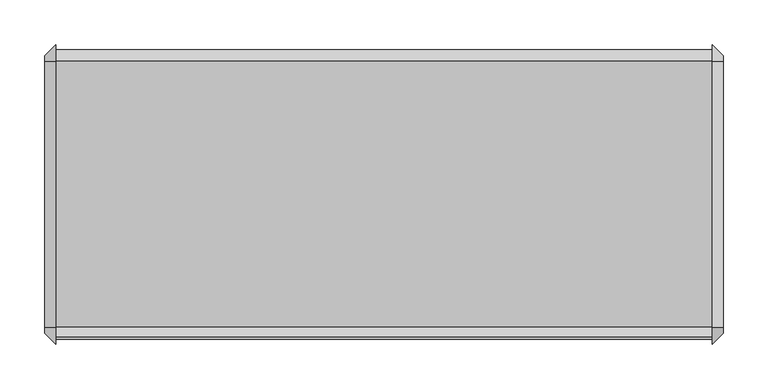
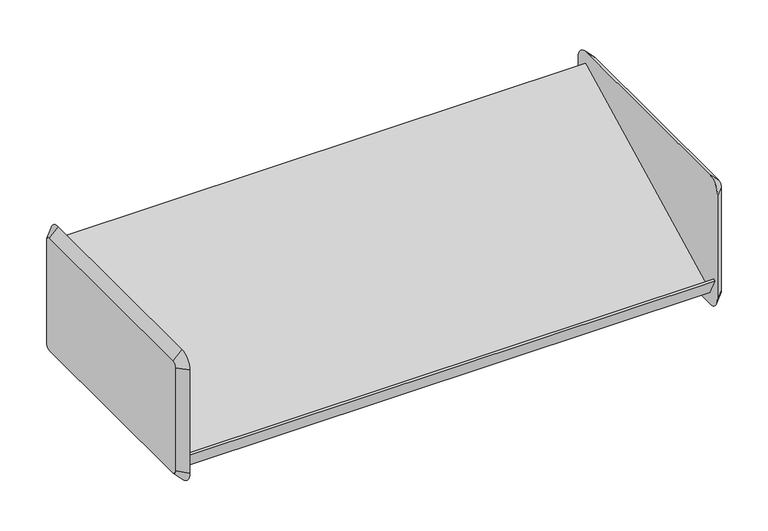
"""IFC4 building model written with IfcOpenShell, lengths in millimetres: furniture geometry."""

import ifcopenshell
import ifcopenshell.guid

model = None  # the IFC model being written
_history = None  # IfcOwnerHistory: only IFC2X3 demands one
_inside = {}  # id of a spatial element -> (the spatial element, [elements in it])
_under = {}  # id of a project, library or spatial element -> (it, [spatial elements below it])
_declared = {}  # id of a project -> (the project, [libraries it declares])
_typed = {}  # id of a type object -> (the type object, [elements of that type])
_made_of = {}  # id of a material, layer set ... -> (it, [elements and type objects made of it])


def new_model(schema):
    """Start an empty IFC model of exactly this schema.

    Asked for "IFC4X3", IfcOpenShell would pick the latest addendum, in which some entities
    have other attributes; the version numbers below select the first issue.
    IFC2X3 requires an IfcOwnerHistory on every rooted entity: one is made here for all.
    """
    global model, _history
    if schema == "IFC4X3":
        model = ifcopenshell.file(schema_version=(4, 3, 0, 0))
    else:
        model = ifcopenshell.file(schema=schema)
    _inside.clear()
    _under.clear()
    _declared.clear()
    _typed.clear()
    _made_of.clear()
    _history = None
    if model.schema == "IFC2X3":
        org = make("IfcOrganization", Name="unknown")
        user = make(
            "IfcPersonAndOrganization",
            ThePerson=make("IfcPerson", FamilyName="unknown"),
            TheOrganization=org,
        )
        app = make(
            "IfcApplication",
            ApplicationDeveloper=org,
            Version="unknown",
            ApplicationFullName="unknown",
            ApplicationIdentifier="unknown",
        )
        _history = make(
            "IfcOwnerHistory",
            OwningUser=user,
            OwningApplication=app,
            ChangeAction="ADDED",
            CreationDate=0,
        )
    return model


def make(cls, **values):
    """One entity of the class cls with the attributes given. An attribute that is None is left unset."""
    return model.create_entity(
        cls, **{name: value for name, value in values.items() if value is not None}
    )


def rooted(cls, **values):
    """An entity with a GlobalId (a new one), such as an element, a storey or a relation."""
    return make(cls, GlobalId=ifcopenshell.guid.new(), OwnerHistory=_history, **values)


def si_unit(unit_type, name, prefix=None):
    """IfcSIUnit, for example si_unit("LENGTHUNIT", "METRE", prefix="MILLI")."""
    return make("IfcSIUnit", UnitType=unit_type, Prefix=prefix, Name=name)


def assignment(units):
    """IfcUnitAssignment: the units of a project."""
    return None if units is None else make("IfcUnitAssignment", Units=units)


def point(xyz):
    """IfcCartesianPoint."""
    return None if xyz is None else make("IfcCartesianPoint", Coordinates=xyz)


def direction(xyz):
    """IfcDirection."""
    return None if xyz is None else make("IfcDirection", DirectionRatios=xyz)


def frame(location, z_axis=None, x_axis=None):
    """IfcAxis2Placement3D, a coordinate frame: its origin and axes. An axis left out is left unset."""
    return make(
        "IfcAxis2Placement3D",
        Location=point(location),
        Axis=direction(z_axis),
        RefDirection=direction(x_axis),
    )


def origin():
    """The frame at (0, 0, 0) with its axes left unset."""
    return frame((0.0, 0.0, 0.0))


def place(relative_to, where):
    """IfcLocalPlacement: puts the frame where relative to a parent placement (None: the world)."""
    return make(
        "IfcLocalPlacement", PlacementRelTo=relative_to, RelativePlacement=where
    )


def context(
    kind, dimensions, precision=None, world=None, true_north=None, identifier=None
):
    """IfcGeometricRepresentationContext, for example the 3D "Model" context."""
    return make(
        "IfcGeometricRepresentationContext",
        ContextIdentifier=identifier,
        ContextType=kind,
        CoordinateSpaceDimension=dimensions,
        Precision=precision,
        WorldCoordinateSystem=world,
        TrueNorth=true_north,
    )


def project(units=None, contexts=None):
    """IfcProject with its units and contexts."""
    return rooted(
        "IfcProject",
        Name="project",
        RepresentationContexts=contexts,
        UnitsInContext=assignment(units),
    )


def spatial(cls, under=None, at=None, **own):
    """A site, building, storey or space (cls), placed at a placement, below another one or the project."""
    s = rooted(cls, ObjectPlacement=at, **own)
    if under is not None:
        _under.setdefault(under.id(), (under, []))[1].append(s)
    return s


def polyline(points):
    """IfcPolyline through the points."""
    return make("IfcPolyline", Points=[point(p) for p in points])


def circle_curve(where, radius):
    """IfcCircle in the frame where."""
    return make("IfcCircle", Position=where, Radius=radius)


def outline(outer, holes=None, kind="AREA"):
    """IfcArbitraryClosedProfileDef: a profile drawn as a closed curve; with holes, ...WithVoids."""
    if holes is None:
        return make("IfcArbitraryClosedProfileDef", ProfileType=kind, OuterCurve=outer)
    return make(
        "IfcArbitraryProfileDefWithVoids",
        ProfileType=kind,
        OuterCurve=outer,
        InnerCurves=holes,
    )


def extrude(swept, where, along, depth):
    """IfcExtrudedAreaSolid: the profile swept, set in the frame where, extruded along a direction by depth."""
    return make(
        "IfcExtrudedAreaSolid",
        SweptArea=swept,
        Position=where,
        ExtrudedDirection=direction(along),
        Depth=depth,
    )


def shape(context_of_items, identifier, shape_type, items):
    """IfcShapeRepresentation: the items that make up one representation, for example the "Body"."""
    return make(
        "IfcShapeRepresentation",
        ContextOfItems=context_of_items,
        RepresentationIdentifier=identifier,
        RepresentationType=shape_type,
        Items=items,
    )


def source(mapping_origin, context_of_items, identifier, shape_type, items):
    """IfcRepresentationMap: a shape defined once, which mapped items show again and again."""
    return make(
        "IfcRepresentationMap",
        MappingOrigin=mapping_origin,
        MappedRepresentation=shape(context_of_items, identifier, shape_type, items),
    )


def transform(
    local_origin,
    x_axis=None,
    y_axis=None,
    z_axis=None,
    scale=None,
    scale2=None,
    scale3=None,
    uniform=True,
):
    """IfcCartesianTransformationOperator3D, or its non-uniform kind. x_axis, y_axis, z_axis: its Axis1, 2, 3."""
    if uniform:
        return make(
            "IfcCartesianTransformationOperator3D",
            Axis1=direction(x_axis),
            Axis2=direction(y_axis),
            LocalOrigin=point(local_origin),
            Scale=scale,
            Axis3=direction(z_axis),
        )
    return make(
        "IfcCartesianTransformationOperator3DnonUniform",
        Axis1=direction(x_axis),
        Axis2=direction(y_axis),
        LocalOrigin=point(local_origin),
        Scale=scale,
        Axis3=direction(z_axis),
        Scale2=scale2,
        Scale3=scale3,
    )


def mapped(mapping_source, mapping_target):
    """IfcMappedItem: shows the shape of a source again, moved by a transform."""
    return make(
        "IfcMappedItem", MappingSource=mapping_source, MappingTarget=mapping_target
    )


def made_of(thing, what):
    """Note that an element or type object is made of a material, layer set ...; save() writes the relation."""
    if what is not None:
        _made_of.setdefault(what.id(), (what, []))[1].append(thing)
    return thing


def element(
    cls,
    number,
    at=None,
    inside=None,
    cuts=None,
    type_object=None,
    material=None,
    context=None,
    identifier="Body",
    shape_type=None,
    held_by="IfcProductDefinitionShape",
    body=None,
    shapes=None,
    **own,
):
    """One element of the class cls, such as IfcWall. Its Tag is "e" and its number.

    at: its placement. inside: the storey or other place that contains it. cuts: it is an
    opening in that element (IfcRelVoidsElement). A single representation is given by context,
    identifier, shape_type and body (its items); several are given by shapes. held_by: the class
    of the entity that holds the representations. save() writes the other relations.
    """
    e = rooted(cls, Tag="e%d" % number, ObjectPlacement=at, **own)
    if body is not None:
        shapes = [shape(context, identifier, shape_type, body)]
    if shapes is not None:
        e.Representation = make(held_by, Representations=shapes)
    if inside is not None:
        _inside.setdefault(inside.id(), (inside, []))[1].append(e)
    if cuts is not None:
        rooted(
            "IfcRelVoidsElement", RelatingBuildingElement=cuts, RelatedOpeningElement=e
        )
    if type_object is not None:
        _typed.setdefault(type_object.id(), (type_object, []))[1].append(e)
    return made_of(e, material)


def aggregate(whole, parts):
    """IfcRelAggregates: a whole, such as a stair, and the parts it consists of."""
    return rooted("IfcRelAggregates", RelatingObject=whole, RelatedObjects=parts)


def save(model, path):
    """Write the relations noted so far, then the file.

    IfcRelAggregates (storeys below a building ...), IfcRelContainedInSpatialStructure (elements
    in a storey), IfcRelDefinesByType, IfcRelAssociatesMaterial and IfcRelDeclares: one each for
    every whole, place, type object, material and project.
    """
    for whole, parts in _under.values():
        aggregate(whole, parts)
    for where, things in _inside.values():
        rooted(
            "IfcRelContainedInSpatialStructure",
            RelatedElements=things,
            RelatingStructure=where,
        )
    for kind, things in _typed.values():
        rooted("IfcRelDefinesByType", RelatedObjects=things, RelatingType=kind)
    for what, things in _made_of.values():
        rooted("IfcRelAssociatesMaterial", RelatedObjects=things, RelatingMaterial=what)
    for by, libraries in _declared.values():
        rooted("IfcRelDeclares", RelatingContext=by, RelatedDefinitions=libraries)
    model.write(path)


def plane_surface(at):
    """IfcPlane: the flat surface through the origin of the frame at, square to its z axis."""
    return make("IfcPlane", Position=at)


def revolved_surface(curve, axis_point, axis_direction):
    """IfcSurfaceOfRevolution: the curve turned about the line through axis_point along axis_direction."""
    return make(
        "IfcSurfaceOfRevolution",
        SweptCurve=make("IfcArbitraryOpenProfileDef", ProfileType="CURVE", Curve=curve),
        AxisPosition=make("IfcAxis1Placement", Location=point(axis_point), Axis=direction(axis_direction)),
    )


def advanced_brep(points, edges, surfaces, faces):
    """IfcAdvancedBrep: a solid bounded by faces that lie on surfaces and meet in shared edges.

    An edge is (start, end): straight between two places in points (the first is 0);
    or (start, end, curve); or (start, end, curve, False) where it runs against its curve.
    A face is (place in surfaces, loops), or (place, loops, False) where it looks against
    its surface's normal. A loop lists edges by number (the first is 1), with a minus sign
    where the edge is run from its end to its start. The first loop is the outer one.
    """
    corners = [point(p) for p in points]
    vertices = [make("IfcVertexPoint", VertexGeometry=c) for c in corners]
    made = []
    for start, end, *more in edges:
        made.append(
            make(
                "IfcEdgeCurve",
                EdgeStart=vertices[start],
                EdgeEnd=vertices[end],
                EdgeGeometry=more[0] if more else make("IfcPolyline", Points=[corners[start], corners[end]]),
                SameSense=more[1] if len(more) > 1 else True,
            )
        )
    hull = []
    for where, loops, *sense in faces:
        bounds = []
        for j, loop in enumerate(loops):
            ring = [make("IfcOrientedEdge", EdgeElement=made[abs(k) - 1], Orientation=k > 0) for k in loop]
            bounds.append(
                make(
                    "IfcFaceOuterBound" if j == 0 else "IfcFaceBound",
                    Bound=make("IfcEdgeLoop", EdgeList=ring),
                    Orientation=True,
                )
            )
        hull.append(make("IfcAdvancedFace", Bounds=bounds, FaceSurface=surfaces[where], SameSense=sense[0] if sense else True))
    return make("IfcAdvancedBrep", Outer=make("IfcClosedShell", CfsFaces=hull))


def furniture_ef68f809(model_context):
    return source(origin(), model_context, "Body", "SolidModel", [
        advanced_brep(
        [(257.0579955, 161.925, 1206.5), (257.0579955, -136.525, 1206.5), (257.0579955, -142.875, 1200.15), (257.0579955, -142.875, 1047.75), (257.0579955, -136.525, 1041.4), (257.0579955, 161.925, 1041.4), (257.0579955, 168.275, 1047.75), (257.0579955, 168.275, 1200.15), (244.3579955, 161.925, 1219.2), (244.3579955, 180.975, 1200.15), (244.3579955, 180.975, 1047.75), (244.3579955, 161.925, 1028.7), (244.3579955, -136.525, 1028.7), (244.3579955, -155.575, 1047.75), (244.3579955, -155.575, 1200.15), (244.3579955, -136.525, 1219.2)],
        [
            (0, 1),
            (1, 2, circle_curve(frame((257.0579955, -136.525, 1200.15), z_axis=(1.0, 2.0730084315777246e-12, -2.174260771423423e-12), x_axis=(2.1742640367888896e-12, 0.0, 1.0)), 6.35)),
            (2, 3),
            (3, 4, circle_curve(frame((257.0579955, -136.525, 1047.75), z_axis=(1.0, 2.0596857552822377e-12, 2.046363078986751e-12), x_axis=(2.059647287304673e-12, -1.0, 0.0)), 6.35)),
            (4, 5),
            (5, 6, circle_curve(frame((257.0579955, 161.925, 1047.75), z_axis=(1.0, 2.0889956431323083e-12, -2.0996537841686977e-12), x_axis=(-2.0996846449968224e-12, 0.0, -1.0)), 6.35)),
            (6, 7),
            (7, 0, circle_curve(frame((257.0579955, 161.925, 1200.15), z_axis=(1.0, 2.0783375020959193e-12, 1.971756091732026e-12), x_axis=(-2.0783313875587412e-12, 1.0, 0.0)), 6.35)),
            (8, 9, circle_curve(frame((244.3579955, 161.925, 1200.15), z_axis=(-1.0, -2.0783375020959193e-12, -1.971756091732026e-12), x_axis=(-2.0783313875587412e-12, 1.0, 0.0)), 19.05)),
            (9, 10),
            (10, 11, circle_curve(frame((244.3579955, 161.925, 1047.75), z_axis=(-1.0, -2.0889956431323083e-12, 2.0996537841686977e-12), x_axis=(-2.0996846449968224e-12, 0.0, -1.0)), 19.05)),
            (11, 12),
            (12, 13, circle_curve(frame((244.3579955, -136.525, 1047.75), z_axis=(-1.0, -2.0596857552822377e-12, -2.046363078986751e-12), x_axis=(2.059647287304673e-12, -1.0, 0.0)), 19.05)),
            (13, 14),
            (14, 15, circle_curve(frame((244.3579955, -136.525, 1200.15), z_axis=(-1.0, -2.0730084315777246e-12, 2.174260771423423e-12), x_axis=(2.1742640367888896e-12, 0.0, 1.0)), 19.05)),
            (15, 8),
            (15, 1),
            (0, 8),
            (14, 2),
            (13, 3),
            (12, 4),
            (11, 5),
            (10, 6),
            (9, 7),
        ],
        [
            plane_surface(frame((257.0579955, 12.7, 1123.95), z_axis=(1.0, 0.0, 0.0), x_axis=(0.0, -1.0, 0.0))),
            plane_surface(frame((244.3579955, 12.7, 1123.95), z_axis=(-1.0, 0.0, 0.0), x_axis=(0.0, -1.0, 0.0))),
            plane_surface(frame((244.3579955, 12.7, 1219.2), z_axis=(0.7071067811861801, 0.0, 0.707106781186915), x_axis=(0.0, -1.0, 0.0))),
            revolved_surface(polyline([(257.0579955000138, -136.525, 1206.4999999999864), (244.3579955, -136.525, 1219.2)]), (263.4079955, -136.525, 1200.15), (-1.0, -2.0730084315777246e-12, 2.174260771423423e-12)),
            plane_surface(frame((244.3579955, -155.575, 1123.95), z_axis=(0.7071067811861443, -0.7071067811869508, 0.0), x_axis=(0.0, 0.0, -1.0))),
            revolved_surface(polyline([(257.0579955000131, -142.87499999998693, 1047.75), (244.3579955, -155.575, 1047.75)]), (263.4079955, -136.525, 1047.75), (-1.0, -2.0596857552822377e-12, -2.046363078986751e-12)),
            plane_surface(frame((244.3579955, 12.7, 1028.7), z_axis=(0.7071067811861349, 0.0, -0.7071067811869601), x_axis=(0.0, 1.0, 0.0))),
            revolved_surface(polyline([(257.0579955, 161.925, 1041.4), (244.35799549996, 161.925, 1028.69999999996)]), (263.4079955, 161.925, 1047.75), (-1.0, -2.0889956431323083e-12, 2.0996537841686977e-12)),
            plane_surface(frame((244.3579955, 180.975, 1123.95), z_axis=(0.7071067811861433, 0.7071067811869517, 0.0), x_axis=(0.0, 0.0, 1.0))),
            revolved_surface(polyline([(257.0579955, 168.275, 1200.15), (244.3579954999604, 180.97500000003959, 1200.15)]), (263.4079955, 161.925, 1200.15), (-1.0, -2.0783375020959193e-12, -1.971756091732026e-12)),
        ],
        [
            (0, [[1, 2, 3, 4, 5, 6, 7, 8]]),
            (1, [[9, 10, 11, 12, 13, 14, 15, 16]]),
            (2, [[-16, 17, -1, 18]]),
            (3, [[-15, 19, -2, -17]]),
            (4, [[-14, 20, -3, -19]]),
            (5, [[-13, 21, -4, -20]]),
            (6, [[-12, 22, -5, -21]]),
            (7, [[-11, 23, -6, -22]]),
            (8, [[-10, 24, -7, -23]]),
            (9, [[-9, -18, -8, -24]]),
        ],
    ),
        advanced_brep(
        [(-504.9420045, -136.525, 1206.5), (-504.9420045, 161.925, 1206.5), (-504.9420045, 168.275, 1200.15), (-504.9420045, 168.275, 1047.75), (-504.9420045, 161.925, 1041.4), (-504.9420045, -136.525, 1041.4), (-504.9420045, -142.875, 1047.75), (-504.9420045, -142.875, 1200.15), (-492.2420045, -136.525, 1219.2), (-492.2420045, -155.575, 1200.15), (-492.2420045, -155.575, 1047.75), (-492.2420045, -136.525, 1028.7), (-492.2420045, 161.925, 1028.7), (-492.2420045, 180.975, 1047.75), (-492.2420045, 180.975, 1200.15), (-492.2420045, 161.925, 1219.2)],
        [
            (0, 1),
            (1, 2, circle_curve(frame((-504.9420045, 161.925, 1200.15), z_axis=(-1.0, 0.0, 0.0), x_axis=(0.0, 0.0, 1.0)), 6.35)),
            (2, 3),
            (3, 4, circle_curve(frame((-504.9420045, 161.925, 1047.75), z_axis=(-1.0, 0.0, 0.0), x_axis=(0.0, 1.0, 0.0)), 6.35)),
            (4, 5),
            (5, 6, circle_curve(frame((-504.9420045, -136.525, 1047.75), z_axis=(-1.0, 0.0, 0.0), x_axis=(0.0, 0.0, -1.0)), 6.35)),
            (6, 7),
            (7, 0, circle_curve(frame((-504.9420045, -136.525, 1200.15), z_axis=(-1.0, 0.0, 0.0), x_axis=(0.0, -1.0, 0.0)), 6.35)),
            (8, 9, circle_curve(frame((-492.2420045, -136.525, 1200.15), z_axis=(1.0, 0.0, 0.0), x_axis=(0.0, -1.0, 0.0)), 19.05)),
            (9, 10),
            (10, 11, circle_curve(frame((-492.2420045, -136.525, 1047.75), z_axis=(1.0, 0.0, 0.0), x_axis=(0.0, 0.0, -1.0)), 19.05)),
            (11, 12),
            (12, 13, circle_curve(frame((-492.2420045, 161.925, 1047.75), z_axis=(1.0, 0.0, 0.0), x_axis=(0.0, 1.0, 0.0)), 19.05)),
            (13, 14),
            (14, 15, circle_curve(frame((-492.2420045, 161.925, 1200.15), z_axis=(1.0, 0.0, 0.0), x_axis=(0.0, 0.0, 1.0)), 19.05)),
            (15, 8),
            (15, 1),
            (0, 8),
            (14, 2),
            (13, 3),
            (12, 4),
            (11, 5),
            (10, 6),
            (9, 7),
        ],
        [
            plane_surface(frame((-504.9420045, 12.7, 1123.95), z_axis=(-1.0, 0.0, 0.0), x_axis=(0.0, -1.0, 0.0))),
            plane_surface(frame((-492.2420045, 12.7, 1123.95), z_axis=(1.0, 0.0, 0.0), x_axis=(0.0, -1.0, 0.0))),
            plane_surface(frame((-492.2420045, 12.7, 1219.2), z_axis=(-0.7071067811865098, 0.0, 0.7071067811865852), x_axis=(0.0, 1.0, 0.0))),
            revolved_surface(polyline([(-504.9420045, 161.925, 1206.5), (-492.2420045, 161.925, 1219.2)]), (-511.2920045, 161.925, 1200.15), (1.0, 0.0, 0.0)),
            plane_surface(frame((-492.2420045, 180.975, 1123.95), z_axis=(-0.7071067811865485, 0.7071067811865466, 0.0), x_axis=(0.0, 0.0, -1.0))),
            revolved_surface(polyline([(-504.9420045, 168.27500000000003, 1047.75), (-492.2420045, 180.975, 1047.75)]), (-511.2920045, 161.925, 1047.75), (1.0, 0.0, 0.0)),
            plane_surface(frame((-492.2420045, 12.7, 1028.7), z_axis=(-0.707106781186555, 0.0, -0.70710678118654), x_axis=(0.0, -1.0, 0.0))),
            revolved_surface(polyline([(-504.9420045, -136.525, 1041.4), (-492.2420045, -136.525, 1028.7)]), (-511.2920045, -136.525, 1047.75), (1.0, 0.0, 0.0)),
            plane_surface(frame((-492.2420045, -155.575, 1123.95), z_axis=(-0.7071067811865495, -0.7071067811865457, 0.0), x_axis=(0.0, 0.0, 1.0))),
            revolved_surface(polyline([(-504.9420045, -142.87500000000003, 1200.15), (-492.2420045, -155.575, 1200.15)]), (-511.2920045, -136.525, 1200.15), (1.0, 0.0, 0.0)),
        ],
        [
            (0, [[1, 2, 3, 4, 5, 6, 7, 8]]),
            (1, [[9, 10, 11, 12, 13, 14, 15, 16]]),
            (2, [[-16, 17, -1, 18]]),
            (3, [[-15, 19, -2, -17]]),
            (4, [[-14, 20, -3, -19]]),
            (5, [[-13, 21, -4, -20]]),
            (6, [[-12, 22, -5, -21]]),
            (7, [[-11, 23, -6, -22]]),
            (8, [[-10, 24, -7, -23]]),
            (9, [[-9, -18, -8, -24]]),
        ],
    ),
        extrude(outline(polyline([(-137.2094993, 1045.6179666), (-149.845093, 1070.0467844), (-147.0173828, 1071.4907216), (-135.8404765, 1049.8820334), (162.5893131, 1202.2717194), (175.2453599, 1178.6470972), (172.4171401, 1177.2028998), (161.2606869, 1198.0282806), (-137.2094993, 1045.6179666)])), frame((-492.2420045, 0.0, 0.0), z_axis=(1.0, 0.0, 0.0), x_axis=(0.0, 1.0, 0.0)), (0.0, 0.0, 1.0), 736.6),
    ])


if __name__ == "__main__":
    model = new_model("IFC4")
    model_context = context("Model", 3, world=origin())
    ifc_project = project(units=[si_unit("LENGTHUNIT", "METRE", prefix="MILLI")], contexts=[model_context])
    site = spatial("IfcSite", under=ifc_project)
    building = spatial("IfcBuilding", under=site)
    placement = place(None, origin())
    furniture_shape = furniture_ef68f809(model_context)
    element("IfcFurniture", 1, ObjectType="HermanMiller_ActionOffice_A3220_B-StyleStorageDisplay : Display 13\"D x 30\"W", at=placement, inside=building, context=model_context, shape_type="MappedRepresentation", body=[
        mapped(furniture_shape, transform((0.0, 0.0, 0.0), x_axis=(1.0, 0.0, 0.0), y_axis=(0.0, 1.0, 0.0), z_axis=(0.0, 0.0, 1.0))),
    ])
    save(model, "model.ifc")
